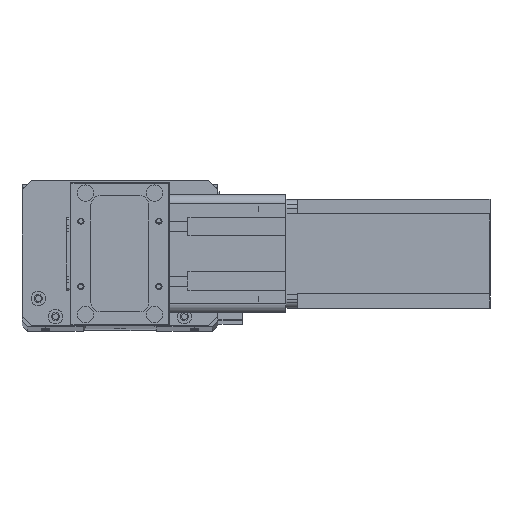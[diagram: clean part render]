
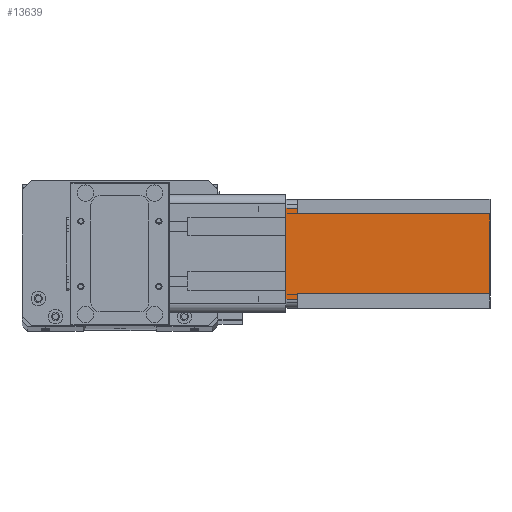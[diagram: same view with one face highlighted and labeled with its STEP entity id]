
A CAD part, top view. The second image highlights one B-rep face of the part: STEP entity #13639.
In plain terms, the highlighted planar face has unit normal (0, 0, 1) as drawn and (0, 1, 0) by its records, which use the part's own axes.
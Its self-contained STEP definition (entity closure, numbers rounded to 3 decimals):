
#950 = LINE ( 'NONE', #12016, #11117 ) ;
#1830 = EDGE_CURVE ( 'NONE', #9910, #26016, #12642, .T. ) ;
#1873 = DIRECTION ( 'NONE',  ( 0., 1., 0. ) ) ;
#2142 = CARTESIAN_POINT ( 'NONE',  ( 5., 60., -112.5 ) ) ;
#2369 = LINE ( 'NONE', #2142, #25507 ) ;
#2933 = VERTEX_POINT ( 'NONE', #26041 ) ;
#3060 = CARTESIAN_POINT ( 'NONE',  ( 8., 60., -112.5 ) ) ;
#3179 = VERTEX_POINT ( 'NONE', #26776 ) ;
#3777 = EDGE_CURVE ( 'NONE', #14398, #24629, #13284, .T. ) ;
#3821 = FACE_OUTER_BOUND ( 'NONE', #9829, .T. ) ;
#3877 = VECTOR ( 'NONE', #3949, 1000. ) ;
#3949 = DIRECTION ( 'NONE',  ( 0., 0., -1. ) ) ;
#4004 = DIRECTION ( 'NONE',  ( 0., 0., -1. ) ) ;
#4226 = EDGE_CURVE ( 'NONE', #2933, #6346, #2369, .T. ) ;
#4233 = ORIENTED_EDGE ( 'NONE', *, *, #18584, .T. ) ;
#6166 = CARTESIAN_POINT ( 'NONE',  ( 8., 60., -6.5 ) ) ;
#6346 = VERTEX_POINT ( 'NONE', #15899 ) ;
#6457 = EDGE_CURVE ( 'NONE', #24629, #3179, #950, .T. ) ;
#6532 = CARTESIAN_POINT ( 'NONE',  ( 8., 60., -6.5 ) ) ;
#8097 = DIRECTION ( 'NONE',  ( -1., 0., 0. ) ) ;
#9077 = CARTESIAN_POINT ( 'NONE',  ( 0., 60., -112.5 ) ) ;
#9616 = LINE ( 'NONE', #16955, #3877 ) ;
#9782 = AXIS2_PLACEMENT_3D ( 'NONE', #14908, #1873, #17059 ) ;
#9829 = EDGE_LOOP ( 'NONE', ( #25321, #21795, #11110, #23454, #13831, #16561, #4233, #13040 ) ) ;
#9910 = VERTEX_POINT ( 'NONE', #6532 ) ;
#11110 = ORIENTED_EDGE ( 'NONE', *, *, #6457, .F. ) ;
#11117 = VECTOR ( 'NONE', #22807, 1000. ) ;
#11280 = CARTESIAN_POINT ( 'NONE',  ( 52., 60., -112.5 ) ) ;
#11292 = LINE ( 'NONE', #9077, #27960 ) ;
#11677 = EDGE_CURVE ( 'NONE', #26285, #6346, #18130, .T. ) ;
#12016 = CARTESIAN_POINT ( 'NONE',  ( 52., 60., -6.5 ) ) ;
#12398 = VECTOR ( 'NONE', #8097, 1000. ) ;
#12630 = VECTOR ( 'NONE', #26387, 1000. ) ;
#12642 = LINE ( 'NONE', #27835, #22773 ) ;
#13040 = ORIENTED_EDGE ( 'NONE', *, *, #4226, .T. ) ;
#13267 = EDGE_CURVE ( 'NONE', #14398, #26016, #11292, .T. ) ;
#13284 = LINE ( 'NONE', #11280, #12630 ) ;
#13492 = DIRECTION ( 'NONE',  ( -1., 0., 0. ) ) ;
#13639 = ADVANCED_FACE ( 'NONE', ( #3821 ), #25729, .T. ) ;
#13831 = ORIENTED_EDGE ( 'NONE', *, *, #13267, .T. ) ;
#14398 = VERTEX_POINT ( 'NONE', #19469 ) ;
#14908 = CARTESIAN_POINT ( 'NONE',  ( 0., 60., -112.5 ) ) ;
#15597 = CARTESIAN_POINT ( 'NONE',  ( 55., 60., 0. ) ) ;
#15643 = VECTOR ( 'NONE', #21362, 1000. ) ;
#15899 = CARTESIAN_POINT ( 'NONE',  ( 5., 60., 0. ) ) ;
#16462 = EDGE_CURVE ( 'NONE', #26285, #3179, #9616, .T. ) ;
#16561 = ORIENTED_EDGE ( 'NONE', *, *, #1830, .F. ) ;
#16955 = CARTESIAN_POINT ( 'NONE',  ( 55., 60., -112.5 ) ) ;
#17059 = DIRECTION ( 'NONE',  ( 0., 0., 1. ) ) ;
#17331 = DIRECTION ( 'NONE',  ( 0., 0., 1. ) ) ;
#18130 = LINE ( 'NONE', #18950, #12398 ) ;
#18584 = EDGE_CURVE ( 'NONE', #9910, #2933, #21402, .T. ) ;
#18950 = CARTESIAN_POINT ( 'NONE',  ( 0., 60., 0. ) ) ;
#19202 = CARTESIAN_POINT ( 'NONE',  ( 52., 60., -6.5 ) ) ;
#19469 = CARTESIAN_POINT ( 'NONE',  ( 52., 60., -112.5 ) ) ;
#21362 = DIRECTION ( 'NONE',  ( -1., 0., 0. ) ) ;
#21402 = LINE ( 'NONE', #6166, #15643 ) ;
#21795 = ORIENTED_EDGE ( 'NONE', *, *, #16462, .T. ) ;
#22773 = VECTOR ( 'NONE', #4004, 1000. ) ;
#22807 = DIRECTION ( 'NONE',  ( 1., 0., 0. ) ) ;
#23454 = ORIENTED_EDGE ( 'NONE', *, *, #3777, .F. ) ;
#24629 = VERTEX_POINT ( 'NONE', #19202 ) ;
#25321 = ORIENTED_EDGE ( 'NONE', *, *, #11677, .F. ) ;
#25507 = VECTOR ( 'NONE', #17331, 1000. ) ;
#25729 = PLANE ( 'NONE',  #9782 ) ;
#26016 = VERTEX_POINT ( 'NONE', #3060 ) ;
#26041 = CARTESIAN_POINT ( 'NONE',  ( 5., 60., -6.5 ) ) ;
#26285 = VERTEX_POINT ( 'NONE', #15597 ) ;
#26387 = DIRECTION ( 'NONE',  ( 0., 0., 1. ) ) ;
#26776 = CARTESIAN_POINT ( 'NONE',  ( 55., 60., -6.5 ) ) ;
#27835 = CARTESIAN_POINT ( 'NONE',  ( 8., 60., -112.5 ) ) ;
#27960 = VECTOR ( 'NONE', #13492, 1000. ) ;
